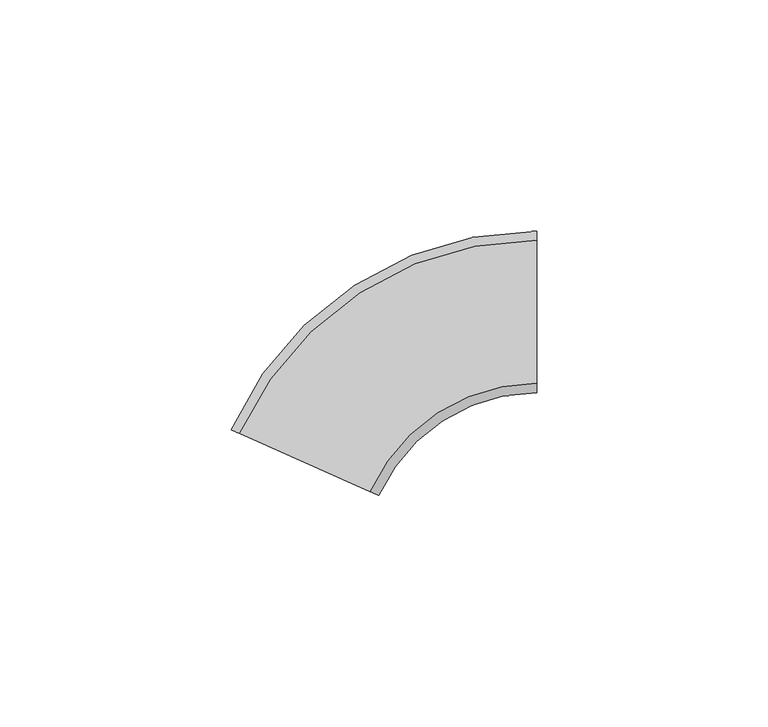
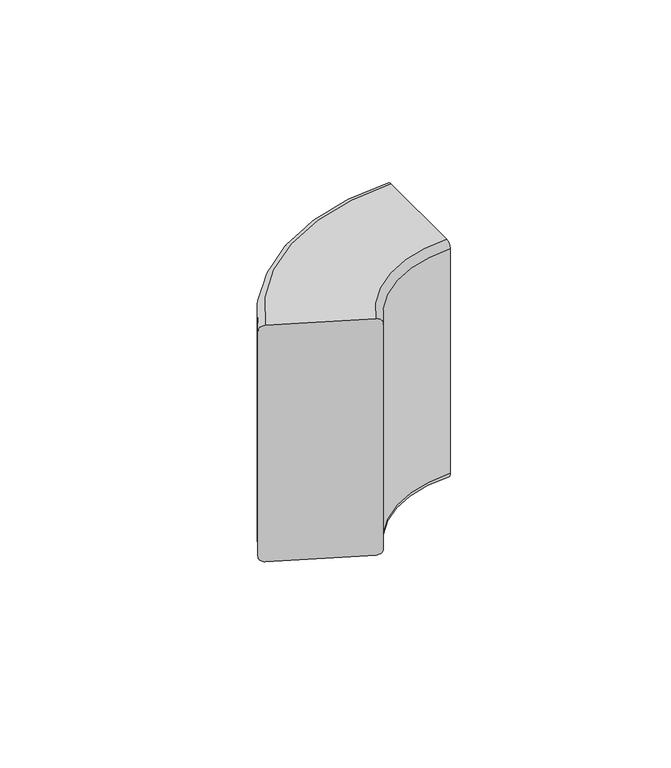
"""IFC4 building model written with IfcOpenShell, lengths in millimetres: duct fitting geometry, Угол внутренний переменный от 80° до 100° - для кабель-каналов DLP - белый : Угол внутренний переменный от 60° до 120° - для кабель-каналов DLP 35х80/105 - белый."""

import ifcopenshell
import ifcopenshell.guid

model = None  # the IFC model being written
_history = None  # IfcOwnerHistory: only IFC2X3 demands one
_inside = {}  # id of a spatial element -> (the spatial element, [elements in it])
_under = {}  # id of a project, library or spatial element -> (it, [spatial elements below it])
_declared = {}  # id of a project -> (the project, [libraries it declares])
_typed = {}  # id of a type object -> (the type object, [elements of that type])
_made_of = {}  # id of a material, layer set ... -> (it, [elements and type objects made of it])


def new_model(schema):
    """Start an empty IFC model of exactly this schema.

    Asked for "IFC4X3", IfcOpenShell would pick the latest addendum, in which some entities
    have other attributes; the version numbers below select the first issue.
    IFC2X3 requires an IfcOwnerHistory on every rooted entity: one is made here for all.
    """
    global model, _history
    if schema == "IFC4X3":
        model = ifcopenshell.file(schema_version=(4, 3, 0, 0))
    else:
        model = ifcopenshell.file(schema=schema)
    _inside.clear()
    _under.clear()
    _declared.clear()
    _typed.clear()
    _made_of.clear()
    _history = None
    if model.schema == "IFC2X3":
        org = make("IfcOrganization", Name="unknown")
        user = make(
            "IfcPersonAndOrganization",
            ThePerson=make("IfcPerson", FamilyName="unknown"),
            TheOrganization=org,
        )
        app = make(
            "IfcApplication",
            ApplicationDeveloper=org,
            Version="unknown",
            ApplicationFullName="unknown",
            ApplicationIdentifier="unknown",
        )
        _history = make(
            "IfcOwnerHistory",
            OwningUser=user,
            OwningApplication=app,
            ChangeAction="ADDED",
            CreationDate=0,
        )
    return model


def make(cls, **values):
    """One entity of the class cls with the attributes given. An attribute that is None is left unset."""
    return model.create_entity(
        cls, **{name: value for name, value in values.items() if value is not None}
    )


def rooted(cls, **values):
    """An entity with a GlobalId (a new one), such as an element, a storey or a relation."""
    return make(cls, GlobalId=ifcopenshell.guid.new(), OwnerHistory=_history, **values)


def si_unit(unit_type, name, prefix=None):
    """IfcSIUnit, for example si_unit("LENGTHUNIT", "METRE", prefix="MILLI")."""
    return make("IfcSIUnit", UnitType=unit_type, Prefix=prefix, Name=name)


def assignment(units):
    """IfcUnitAssignment: the units of a project."""
    return None if units is None else make("IfcUnitAssignment", Units=units)


def point(xyz):
    """IfcCartesianPoint."""
    return None if xyz is None else make("IfcCartesianPoint", Coordinates=xyz)


def direction(xyz):
    """IfcDirection."""
    return None if xyz is None else make("IfcDirection", DirectionRatios=xyz)


def frame(location, z_axis=None, x_axis=None):
    """IfcAxis2Placement3D, a coordinate frame: its origin and axes. An axis left out is left unset."""
    return make(
        "IfcAxis2Placement3D",
        Location=point(location),
        Axis=direction(z_axis),
        RefDirection=direction(x_axis),
    )


def origin():
    """The frame at (0, 0, 0) with its axes left unset."""
    return frame((0.0, 0.0, 0.0))


def place(relative_to, where):
    """IfcLocalPlacement: puts the frame where relative to a parent placement (None: the world)."""
    return make(
        "IfcLocalPlacement", PlacementRelTo=relative_to, RelativePlacement=where
    )


def context(
    kind, dimensions, precision=None, world=None, true_north=None, identifier=None
):
    """IfcGeometricRepresentationContext, for example the 3D "Model" context."""
    return make(
        "IfcGeometricRepresentationContext",
        ContextIdentifier=identifier,
        ContextType=kind,
        CoordinateSpaceDimension=dimensions,
        Precision=precision,
        WorldCoordinateSystem=world,
        TrueNorth=true_north,
    )


def project(units=None, contexts=None):
    """IfcProject with its units and contexts."""
    return rooted(
        "IfcProject",
        Name="project",
        RepresentationContexts=contexts,
        UnitsInContext=assignment(units),
    )


def spatial(cls, under=None, at=None, **own):
    """A site, building, storey or space (cls), placed at a placement, below another one or the project."""
    s = rooted(cls, ObjectPlacement=at, **own)
    if under is not None:
        _under.setdefault(under.id(), (under, []))[1].append(s)
    return s


def polyline(points):
    """IfcPolyline through the points."""
    return make("IfcPolyline", Points=[point(p) for p in points])


def circle_curve(where, radius):
    """IfcCircle in the frame where."""
    return make("IfcCircle", Position=where, Radius=radius)


def ellipse_curve(where, semi_axis1, semi_axis2):
    """IfcEllipse in the frame where."""
    return make(
        "IfcEllipse", Position=where, SemiAxis1=semi_axis1, SemiAxis2=semi_axis2
    )


def trimmed(basis, trim1, trim2, sense, master):
    """IfcTrimmedCurve: the piece of a basis curve between two trims."""
    return make(
        "IfcTrimmedCurve",
        BasisCurve=basis,
        Trim1=trim1,
        Trim2=trim2,
        SenseAgreement=sense,
        MasterRepresentation=master,
    )


def shape(context_of_items, identifier, shape_type, items):
    """IfcShapeRepresentation: the items that make up one representation, for example the "Body"."""
    return make(
        "IfcShapeRepresentation",
        ContextOfItems=context_of_items,
        RepresentationIdentifier=identifier,
        RepresentationType=shape_type,
        Items=items,
    )


def source(mapping_origin, context_of_items, identifier, shape_type, items):
    """IfcRepresentationMap: a shape defined once, which mapped items show again and again."""
    return make(
        "IfcRepresentationMap",
        MappingOrigin=mapping_origin,
        MappedRepresentation=shape(context_of_items, identifier, shape_type, items),
    )


def transform(
    local_origin,
    x_axis=None,
    y_axis=None,
    z_axis=None,
    scale=None,
    scale2=None,
    scale3=None,
    uniform=True,
):
    """IfcCartesianTransformationOperator3D, or its non-uniform kind. x_axis, y_axis, z_axis: its Axis1, 2, 3."""
    if uniform:
        return make(
            "IfcCartesianTransformationOperator3D",
            Axis1=direction(x_axis),
            Axis2=direction(y_axis),
            LocalOrigin=point(local_origin),
            Scale=scale,
            Axis3=direction(z_axis),
        )
    return make(
        "IfcCartesianTransformationOperator3DnonUniform",
        Axis1=direction(x_axis),
        Axis2=direction(y_axis),
        LocalOrigin=point(local_origin),
        Scale=scale,
        Axis3=direction(z_axis),
        Scale2=scale2,
        Scale3=scale3,
    )


def mapped(mapping_source, mapping_target):
    """IfcMappedItem: shows the shape of a source again, moved by a transform."""
    return make(
        "IfcMappedItem", MappingSource=mapping_source, MappingTarget=mapping_target
    )


def made_of(thing, what):
    """Note that an element or type object is made of a material, layer set ...; save() writes the relation."""
    if what is not None:
        _made_of.setdefault(what.id(), (what, []))[1].append(thing)
    return thing


def element(
    cls,
    number,
    at=None,
    inside=None,
    cuts=None,
    type_object=None,
    material=None,
    context=None,
    identifier="Body",
    shape_type=None,
    held_by="IfcProductDefinitionShape",
    body=None,
    shapes=None,
    **own,
):
    """One element of the class cls, such as IfcWall. Its Tag is "e" and its number.

    at: its placement. inside: the storey or other place that contains it. cuts: it is an
    opening in that element (IfcRelVoidsElement). A single representation is given by context,
    identifier, shape_type and body (its items); several are given by shapes. held_by: the class
    of the entity that holds the representations. save() writes the other relations.
    """
    e = rooted(cls, Tag="e%d" % number, ObjectPlacement=at, **own)
    if body is not None:
        shapes = [shape(context, identifier, shape_type, body)]
    if shapes is not None:
        e.Representation = make(held_by, Representations=shapes)
    if inside is not None:
        _inside.setdefault(inside.id(), (inside, []))[1].append(e)
    if cuts is not None:
        rooted(
            "IfcRelVoidsElement", RelatingBuildingElement=cuts, RelatedOpeningElement=e
        )
    if type_object is not None:
        _typed.setdefault(type_object.id(), (type_object, []))[1].append(e)
    return made_of(e, material)


def aggregate(whole, parts):
    """IfcRelAggregates: a whole, such as a stair, and the parts it consists of."""
    return rooted("IfcRelAggregates", RelatingObject=whole, RelatedObjects=parts)


def save(model, path):
    """Write the relations noted so far, then the file.

    IfcRelAggregates (storeys below a building ...), IfcRelContainedInSpatialStructure (elements
    in a storey), IfcRelDefinesByType, IfcRelAssociatesMaterial and IfcRelDeclares: one each for
    every whole, place, type object, material and project.
    """
    for whole, parts in _under.values():
        aggregate(whole, parts)
    for where, things in _inside.values():
        rooted(
            "IfcRelContainedInSpatialStructure",
            RelatedElements=things,
            RelatingStructure=where,
        )
    for kind, things in _typed.values():
        rooted("IfcRelDefinesByType", RelatedObjects=things, RelatingType=kind)
    for what, things in _made_of.values():
        rooted("IfcRelAssociatesMaterial", RelatedObjects=things, RelatingMaterial=what)
    for by, libraries in _declared.values():
        rooted("IfcRelDeclares", RelatingContext=by, RelatedDefinitions=libraries)
    model.write(path)


def plane_surface(at):
    """IfcPlane: the flat surface through the origin of the frame at, square to its z axis."""
    return make("IfcPlane", Position=at)


def cylinder_surface(at, radius):
    """IfcCylindricalSurface: all points at the distance radius from the z axis of the frame at."""
    return make("IfcCylindricalSurface", Position=at, Radius=radius)


def revolved_surface(curve, axis_point, axis_direction):
    """IfcSurfaceOfRevolution: the curve turned about the line through axis_point along axis_direction."""
    return make(
        "IfcSurfaceOfRevolution",
        SweptCurve=make("IfcArbitraryOpenProfileDef", ProfileType="CURVE", Curve=curve),
        AxisPosition=make("IfcAxis1Placement", Location=point(axis_point), Axis=direction(axis_direction)),
    )


def advanced_brep(points, edges, surfaces, faces):
    """IfcAdvancedBrep: a solid bounded by faces that lie on surfaces and meet in shared edges.

    An edge is (start, end): straight between two places in points (the first is 0);
    or (start, end, curve); or (start, end, curve, False) where it runs against its curve.
    A face is (place in surfaces, loops), or (place, loops, False) where it looks against
    its surface's normal. A loop lists edges by number (the first is 1), with a minus sign
    where the edge is run from its end to its start. The first loop is the outer one.
    """
    corners = [point(p) for p in points]
    vertices = [make("IfcVertexPoint", VertexGeometry=c) for c in corners]
    made = []
    for start, end, *more in edges:
        made.append(
            make(
                "IfcEdgeCurve",
                EdgeStart=vertices[start],
                EdgeEnd=vertices[end],
                EdgeGeometry=more[0] if more else make("IfcPolyline", Points=[corners[start], corners[end]]),
                SameSense=more[1] if len(more) > 1 else True,
            )
        )
    hull = []
    for where, loops, *sense in faces:
        bounds = []
        for j, loop in enumerate(loops):
            ring = [make("IfcOrientedEdge", EdgeElement=made[abs(k) - 1], Orientation=k > 0) for k in loop]
            bounds.append(
                make(
                    "IfcFaceOuterBound" if j == 0 else "IfcFaceBound",
                    Bound=make("IfcEdgeLoop", EdgeList=ring),
                    Orientation=True,
                )
            )
        hull.append(make("IfcAdvancedFace", Bounds=bounds, FaceSurface=surfaces[where], SameSense=sense[0] if sense else True))
    return make("IfcAdvancedBrep", Outer=make("IfcClosedShell", CfsFaces=hull))


def duct_fitting_55faeba8(model_context):
    return source(origin(), model_context, "Body", "AdvancedBrep", [
        advanced_brep(
        [(-9.4049548, -48.695582, 40.0), (-11.2320457, -47.8821087, 38.0), (-11.2320457, -47.8821087, -38.0), (-9.4049548, -48.695582, -40.0), (18.9149544, -61.304418, -40.0), (20.7420453, -62.1178913, -38.0), (20.7420453, -62.1178913, 38.0), (18.9149544, -61.304418, 40.0), (55.0, -6.8705154, 40.0), (55.0, -37.8705154, 40.0), (55.0, -39.8705154, 38.0), (55.0, -39.8705154, -38.0), (55.0, -37.8705154, -40.0), (55.0, -6.8705154, -40.0), (55.0, -4.8705154, -38.0), (55.0, -4.8705154, 38.0)],
        [
            (0, 1, circle_curve(frame((-9.4049548, -48.695582, 38.0), z_axis=(-0.40673664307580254, -0.9135454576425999, 0.0), x_axis=(-0.9135454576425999, 0.40673664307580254, 0.0)), 2.0)),
            (1, 2),
            (2, 3, circle_curve(frame((-9.4049548, -48.695582, -38.0), z_axis=(-0.40673664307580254, -0.9135454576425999, 0.0), x_axis=(-0.9135454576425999, 0.40673664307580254, 0.0)), 2.0)),
            (3, 4),
            (4, 5, circle_curve(frame((18.9149544, -61.304418, -38.0), z_axis=(-0.40673664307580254, -0.9135454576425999, 0.0), x_axis=(-0.9135454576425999, 0.40673664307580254, 0.0)), 2.0)),
            (5, 6),
            (6, 7, circle_curve(frame((18.9149544, -61.304418, 38.0), z_axis=(-0.40673664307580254, -0.9135454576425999, 0.0), x_axis=(-0.9135454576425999, 0.40673664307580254, 0.0)), 2.0)),
            (7, 0),
            (8, 9),
            (9, 10, circle_curve(frame((55.0, -37.8705154, 38.0), z_axis=(1.0, 0.0, 0.0), x_axis=(0.0, 1.0, 0.0)), 2.0)),
            (10, 11),
            (11, 12, circle_curve(frame((55.0, -37.8705154, -38.0), z_axis=(1.0, 0.0, 0.0), x_axis=(0.0, 1.0, 0.0)), 2.0)),
            (12, 13),
            (13, 14, circle_curve(frame((55.0, -6.8705154, -38.0), z_axis=(1.0, 0.0, 0.0), x_axis=(0.0, 1.0, 0.0)), 2.0)),
            (14, 15),
            (15, 8, circle_curve(frame((55.0, -6.8705154, 38.0), z_axis=(1.0, 0.0, 0.0), x_axis=(0.0, 1.0, 0.0)), 2.0)),
            (15, 1, circle_curve(frame((55.0, -77.3705154, 38.0), z_axis=(0.0, 0.0, 1.0), x_axis=(-0.9135454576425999, 0.4067366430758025, 0.0)), 72.5)),
            (0, 8, circle_curve(frame((55.0, -77.3705154, 40.0), z_axis=(0.0, 0.0, -1.0), x_axis=(-0.9135454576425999, 0.4067366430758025, 0.0)), 70.5)),
            (14, 2, circle_curve(frame((55.0, -77.3705154, -38.0), z_axis=(0.0, 0.0, 1.0), x_axis=(-0.9135454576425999, 0.4067366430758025, 0.0)), 72.5)),
            (13, 3, circle_curve(frame((55.0, -77.3705154, -40.0), z_axis=(0.0, 0.0, 1.0), x_axis=(-0.9135454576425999, 0.4067366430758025, 0.0)), 70.5)),
            (12, 4, circle_curve(frame((55.0, -77.3705154, -40.0), z_axis=(0.0, 0.0, 1.0), x_axis=(-0.9135454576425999, 0.4067366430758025, 0.0)), 39.5)),
            (11, 5, circle_curve(frame((55.0, -77.3705154, -38.0), z_axis=(0.0, 0.0, 1.0), x_axis=(-0.9135454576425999, 0.4067366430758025, 0.0)), 37.5)),
            (10, 6, circle_curve(frame((55.0, -77.3705154, 38.0), z_axis=(0.0, 0.0, 1.0), x_axis=(-0.9135454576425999, 0.4067366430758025, 0.0)), 37.5)),
            (9, 7, circle_curve(frame((55.0, -77.3705154, 40.0), z_axis=(0.0, 0.0, 1.0), x_axis=(-0.9135454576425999, 0.4067366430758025, 0.0)), 39.5)),
        ],
        [
            plane_surface(frame((4.7549998, -55.0, 0.0), z_axis=(-0.40673664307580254, -0.9135454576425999, 0.0), x_axis=(0.0, 0.0, 1.0))),
            plane_surface(frame((55.0, -22.3705154, 0.0), z_axis=(1.0, 0.0, 0.0), x_axis=(0.0, 0.0, 1.0))),
            revolved_surface(trimmed(ellipse_curve(frame((-9.4049548, -48.695582, 38.0), z_axis=(-0.40673664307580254, -0.9135454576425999, 0.0), x_axis=(-0.9135454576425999, 0.40673664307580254, 0.0)), 2.0, 2.0), [point((-9.4049548, -48.695582, 40.0))], [point((-11.2320457, -47.8821087, 38.0))], True, "CARTESIAN"), (55.0, -77.3705154, 0.0), (0.0, 0.0, -1.0)),
            cylinder_surface(frame((55.0, -77.3705154, 0.0), z_axis=(0.0, 0.0, -1.0), x_axis=(-0.9135454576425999, 0.4067366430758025, 0.0)), 72.5),
            revolved_surface(trimmed(ellipse_curve(frame((-9.4049548, -48.695582, -38.0), z_axis=(-0.40673664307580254, -0.9135454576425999, 0.0), x_axis=(-0.9135454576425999, 0.40673664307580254, 0.0)), 2.0, 2.0), [point((-11.2320457, -47.8821087, -38.0))], [point((-9.4049548, -48.695582, -40.0))], True, "CARTESIAN"), (55.0, -77.3705154, 0.0), (0.0, 0.0, -1.0)),
            plane_surface(frame((55.0, -77.3705154, -40.0), z_axis=(0.0, 0.0, -1.0), x_axis=(-0.9135454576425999, 0.4067366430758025, 0.0))),
            revolved_surface(trimmed(ellipse_curve(frame((18.9149544, -61.304418, -38.0), z_axis=(-0.40673664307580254, -0.9135454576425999, 0.0), x_axis=(-0.9135454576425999, 0.40673664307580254, 0.0)), 2.0, 2.0), [point((18.9149544, -61.304418, -40.0))], [point((20.7420453, -62.1178913, -38.0))], True, "CARTESIAN"), (55.0, -77.3705154, 0.0), (0.0, 0.0, -1.0)),
            revolved_surface(polyline([(20.742045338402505, -62.11789128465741, -38.0), (20.742045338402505, -62.11789128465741, 38.0)]), (55.0, -77.3705154, 0.0), (0.0, 0.0, -1.0)),
            revolved_surface(trimmed(ellipse_curve(frame((18.9149544, -61.304418, 38.0), z_axis=(-0.40673664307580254, -0.9135454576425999, 0.0), x_axis=(-0.9135454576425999, 0.40673664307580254, 0.0)), 2.0, 2.0), [point((20.7420453, -62.1178913, 38.0))], [point((18.9149544, -61.304418, 40.0))], True, "CARTESIAN"), (55.0, -77.3705154, 0.0), (0.0, 0.0, -1.0)),
            plane_surface(frame((55.0, -77.3705154, 40.0), z_axis=(0.0, 0.0, 1.0), x_axis=(-0.9135454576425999, 0.4067366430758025, 0.0))),
        ],
        [
            (0, [[1, 2, 3, 4, 5, 6, 7, 8]]),
            (1, [[9, 10, 11, 12, 13, 14, 15, 16]]),
            (2, [[17, -1, 18, -16]]),
            (3, [[19, -2, -17, -15]]),
            (4, [[20, -3, -19, -14]]),
            (5, [[21, -4, -20, -13]]),
            (6, [[22, -5, -21, -12]]),
            (7, [[23, -6, -22, -11]]),
            (8, [[24, -7, -23, -10]]),
            (9, [[-18, -8, -24, -9]]),
        ],
    ),
    ])


if __name__ == "__main__":
    model = new_model("IFC4")
    model_context = context("Model", 3, world=origin())
    ifc_project = project(units=[si_unit("LENGTHUNIT", "METRE", prefix="MILLI")], contexts=[model_context])
    site = spatial("IfcSite", under=ifc_project)
    building = spatial("IfcBuilding", under=site)
    placement = place(None, origin())
    duct_fitting_shape = duct_fitting_55faeba8(model_context)
    element("IfcDuctFitting", 1, ObjectType="Угол внутренний переменный от 80° до 100° - для кабель-каналов DLP - белый : Угол внутренний переменный от 60° до 120° - для кабель-каналов DLP 35х80/105 - белый", at=placement, inside=building, context=model_context, shape_type="MappedRepresentation", body=[
        mapped(duct_fitting_shape, transform((0.0, 0.0, 0.0), x_axis=(1.0, 0.0, 0.0), y_axis=(0.0, 1.0, 0.0), z_axis=(0.0, 0.0, 1.0))),
    ])
    save(model, "model.ifc")
